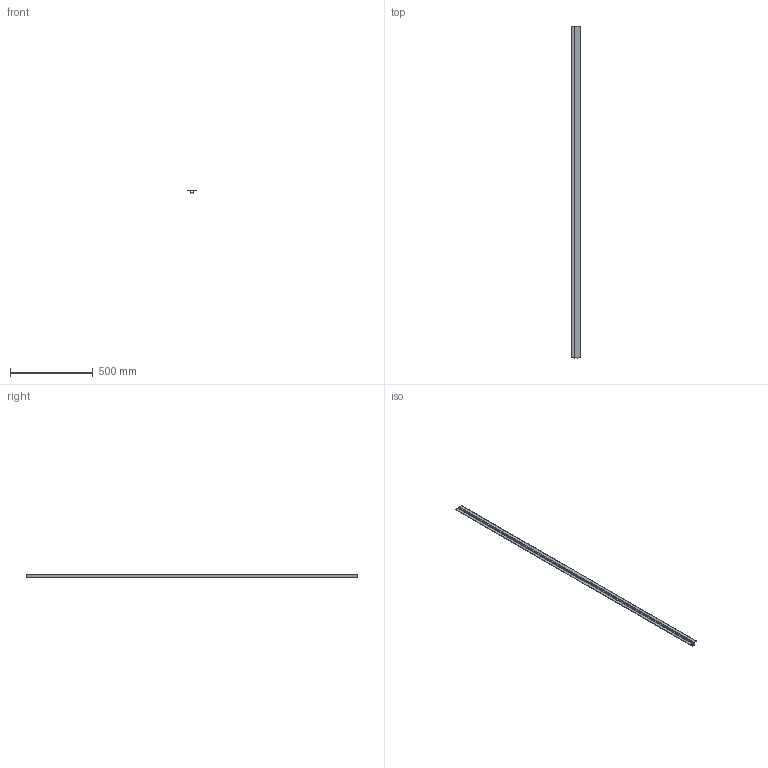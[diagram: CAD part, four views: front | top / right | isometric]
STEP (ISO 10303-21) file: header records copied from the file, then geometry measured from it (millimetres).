
FILE_DESCRIPTION(/* description */ (''),/* implementation_level */ '2;1');
FILE_NAME(/* name */ 'DL 2S C für Vorhang 3D',/* time_stamp */ '2025-09-16T18:15:09+02:00',/* author */ (''),/* organization */ (''),/* preprocessor_version */ 'ST-DEVELOPER v16.5',/* originating_system */ 'Rhino 7.38',/* authorisation */ '');
FILE_SCHEMA (('AUTOMOTIVE_DESIGN_CC2'));
Length unit declared in the file: millimetre
Products named in the file (1): Document
Bounding box: 54 x 2000 x 20.72 mm (x, y, z)
Volume: 272552.3 mm3; surface area: 379648.2 mm2
Topology: 1 solids, 1 shells, 68 faces, 198 edges, 132 vertices
Faces by surface type: bspline 68
Entity records: 4390 total; most frequent: CARTESIAN_POINT 2170, ORIENTED_EDGE 396, PCURVE 396, DEFINITIONAL_REPRESENTATION 396, B_SPLINE_CURVE_WITH_KNOTS 264, SURFACE_CURVE 198, EDGE_CURVE 198, VERTEX_POINT 132
